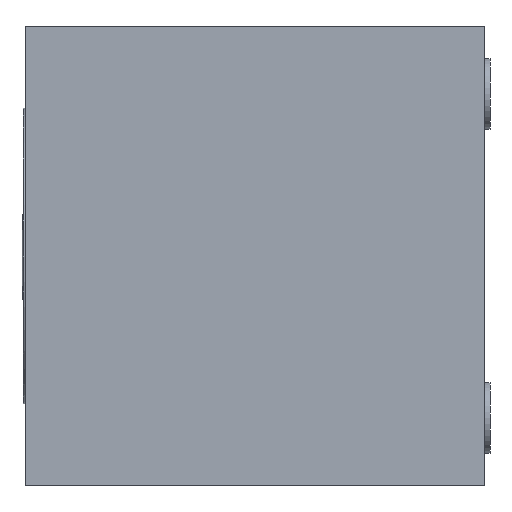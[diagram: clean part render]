
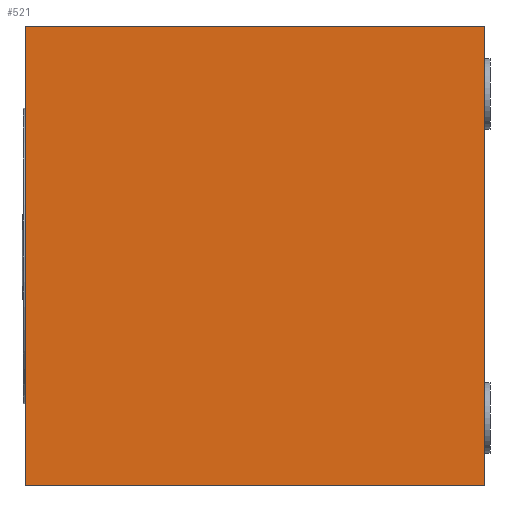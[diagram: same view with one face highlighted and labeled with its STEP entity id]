
A CAD part, left-side view. The second image highlights one B-rep face of the part: STEP entity #521.
In plain terms, the highlighted planar face has unit normal (-1, 0, 0).
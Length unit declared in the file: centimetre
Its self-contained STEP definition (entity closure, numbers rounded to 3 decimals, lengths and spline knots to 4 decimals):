
#21=LINE('',#917,#33);
#22=LINE('',#919,#34);
#23=LINE('',#921,#35);
#24=LINE('',#922,#36);
#33=VECTOR('',#719,17.);
#34=VECTOR('',#720,17.);
#35=VECTOR('',#721,17.);
#36=VECTOR('',#722,17.);
#122=FACE_OUTER_BOUND('',#183,.T.);
#183=EDGE_LOOP('',(#404,#405,#406,#407));
#287=VERTEX_POINT('',#915);
#288=VERTEX_POINT('',#916);
#289=VERTEX_POINT('',#918);
#290=VERTEX_POINT('',#920);
#336=EDGE_CURVE('',#287,#288,#21,.T.);
#337=EDGE_CURVE('',#287,#289,#22,.T.);
#338=EDGE_CURVE('',#290,#289,#23,.T.);
#339=EDGE_CURVE('',#288,#290,#24,.T.);
#404=ORIENTED_EDGE('',*,*,#336,.F.);
#405=ORIENTED_EDGE('',*,*,#337,.T.);
#406=ORIENTED_EDGE('',*,*,#338,.F.);
#407=ORIENTED_EDGE('',*,*,#339,.F.);
#487=PLANE('',#594);
#521=ADVANCED_FACE('',(#122),#487,.T.);
#594=AXIS2_PLACEMENT_3D('',#914,#717,#718);
#717=DIRECTION('center_axis',(-1.,0.,0.));
#718=DIRECTION('ref_axis',(0.,0.,1.));
#719=DIRECTION('',(0.,0.,-1.));
#720=DIRECTION('',(0.,1.,0.));
#721=DIRECTION('',(0.,0.,1.));
#722=DIRECTION('',(0.,1.,0.));
#914=CARTESIAN_POINT('Origin',(-8.5,0.,-8.5));
#915=CARTESIAN_POINT('',(-8.5,0.,8.5));
#916=CARTESIAN_POINT('',(-8.5,0.,-8.5));
#917=CARTESIAN_POINT('',(-8.5,0.,8.5));
#918=CARTESIAN_POINT('',(-8.5,17.,8.5));
#919=CARTESIAN_POINT('',(-8.5,0.,8.5));
#920=CARTESIAN_POINT('',(-8.5,17.,-8.5));
#921=CARTESIAN_POINT('',(-8.5,17.,8.5));
#922=CARTESIAN_POINT('',(-8.5,0.,-8.5));
